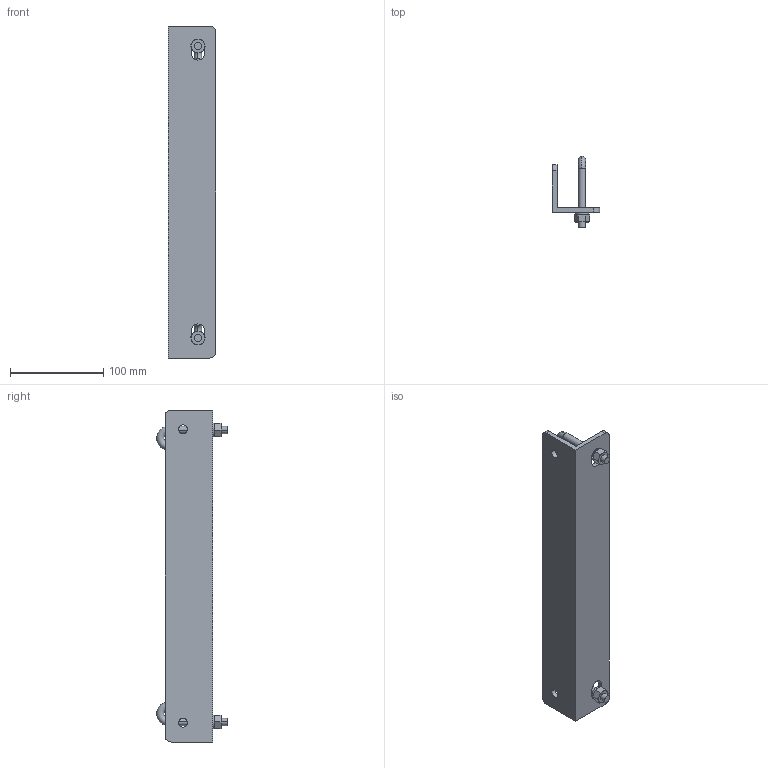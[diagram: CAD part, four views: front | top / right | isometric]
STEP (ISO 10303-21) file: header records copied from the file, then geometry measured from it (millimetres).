
FILE_DESCRIPTION (( 'STEP AP203' ), '1' );
FILE_NAME ('lwask12gz.STEP', '2008-02-25T19:28:59', ( '' ), ( '' ), 'SwSTEP 2.0', 'SolidWorks 2007', '' );
FILE_SCHEMA (( 'CONFIG_CONTROL_DESIGN' ));
Length unit declared in the file: inch
Products named in the file (6): Nut.31; J-BoltSubassy; Hook; WasherLock.31; WallAngleSupport_12inWide; lwask12gz
Assembly tree (6 placements, depth 3):
  lwask12gz
    J-BoltSubassy  x2
      Nut.31
      WasherLock.31
      Hook
    WallAngleSupport_12inWide
Bounding box: 50.8 x 76.1 x 355.6 mm (x, y, z)
Volume: 183373.7 mm3; surface area: 80146.9 mm2
Topology: 7 solids, 7 shells, 109 faces, 249 edges, 154 vertices
Faces by surface type: plane 40, cylinder 33, cone 32, torus 4
Entity records: 2715 total; most frequent: CARTESIAN_POINT 464, DIRECTION 355, ORIENTED_EDGE 318, EDGE_CURVE 159, AXIS2_PLACEMENT_3D 143, VERTEX_POINT 100, EDGE_LOOP 77, VECTOR 69
